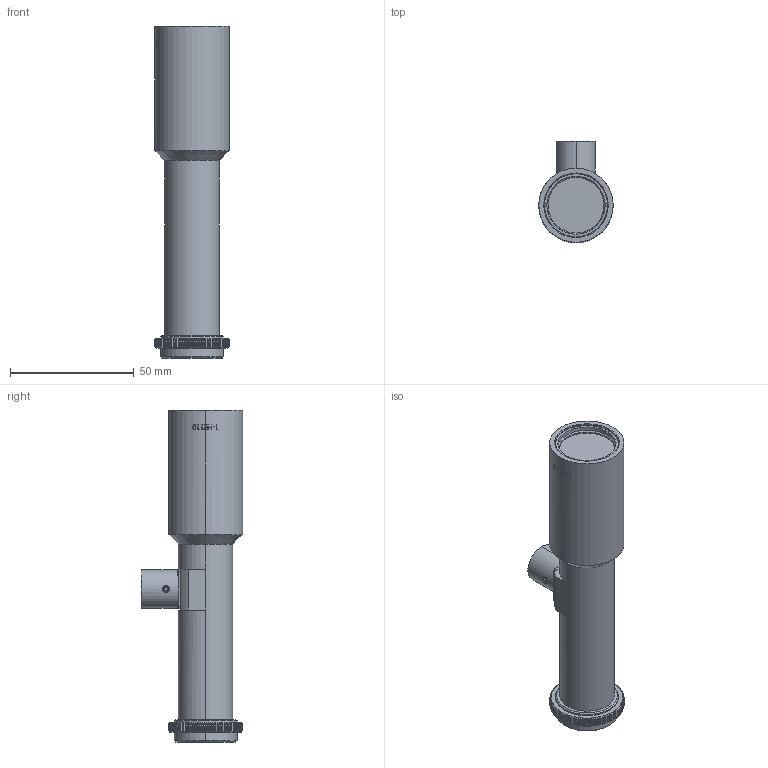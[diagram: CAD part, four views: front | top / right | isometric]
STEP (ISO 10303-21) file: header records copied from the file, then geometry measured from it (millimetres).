
FILE_DESCRIPTION (( 'STEP AP203' ), '1' );
FILE_NAME ('MML1-HR110D_A03128A0000101.STEP', '2012-07-27T00:58:12', ( ' ' ), ( ' ' ), 'SwSTEP 2.0', 'SolidWorks 2011', '' );
FILE_SCHEMA (( 'CONFIG_CONTROL_DESIGN' ));
Length unit declared in the file: millimetre
Products named in the file (1): MML1-HR110D_A03128A0000101
Bounding box: 30 x 41 x 134.1 mm (x, y, z)
Volume: 69881.9 mm3; surface area: 14608.3 mm2
Topology: 1 solids, 9 shells, 615 faces, 1620 edges, 1026 vertices
Faces by surface type: plane 407, cone 97, cylinder 70, bspline 17, torus 16, sphere 8
Entity records: 21800 total; most frequent: CARTESIAN_POINT 7714, ORIENTED_EDGE 3208, DIRECTION 2525, EDGE_CURVE 1604, VERTEX_POINT 1026, AXIS2_PLACEMENT_3D 1001, B_SPLINE_CURVE_WITH_KNOTS 659, EDGE_LOOP 644
